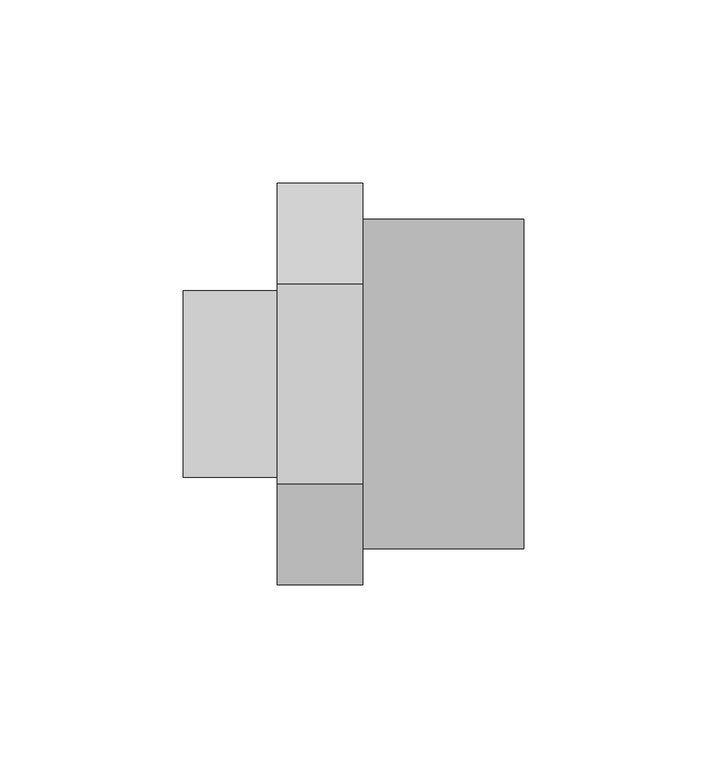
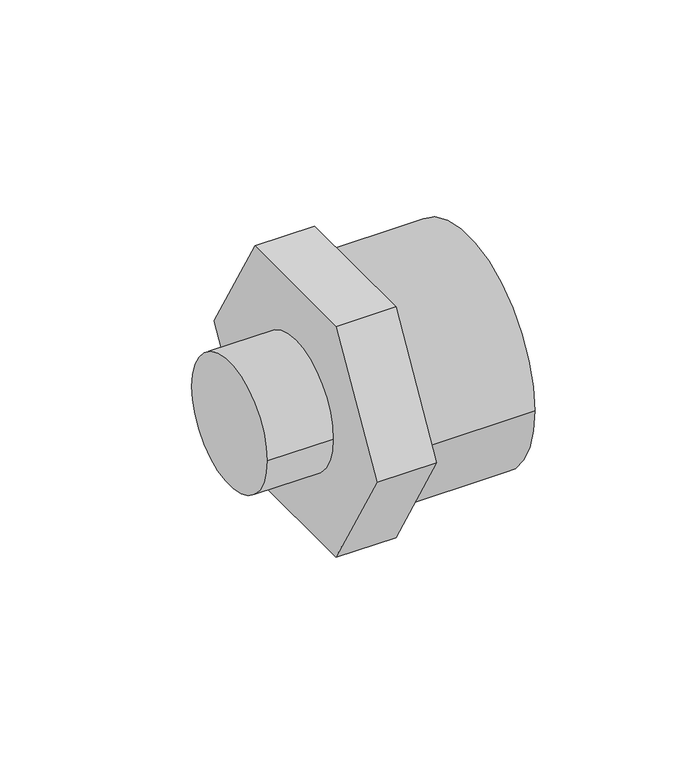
"""IFC4 building model written with IfcOpenShell, lengths in millimetres: pipe fitting geometry, 01101081 : Manguitos multiplos H/M/M."""

import ifcopenshell
import ifcopenshell.guid

model = None  # the IFC model being written
_history = None  # IfcOwnerHistory: only IFC2X3 demands one
_inside = {}  # id of a spatial element -> (the spatial element, [elements in it])
_under = {}  # id of a project, library or spatial element -> (it, [spatial elements below it])
_declared = {}  # id of a project -> (the project, [libraries it declares])
_typed = {}  # id of a type object -> (the type object, [elements of that type])
_made_of = {}  # id of a material, layer set ... -> (it, [elements and type objects made of it])


def new_model(schema):
    """Start an empty IFC model of exactly this schema.

    Asked for "IFC4X3", IfcOpenShell would pick the latest addendum, in which some entities
    have other attributes; the version numbers below select the first issue.
    IFC2X3 requires an IfcOwnerHistory on every rooted entity: one is made here for all.
    """
    global model, _history
    if schema == "IFC4X3":
        model = ifcopenshell.file(schema_version=(4, 3, 0, 0))
    else:
        model = ifcopenshell.file(schema=schema)
    _inside.clear()
    _under.clear()
    _declared.clear()
    _typed.clear()
    _made_of.clear()
    _history = None
    if model.schema == "IFC2X3":
        org = make("IfcOrganization", Name="unknown")
        user = make(
            "IfcPersonAndOrganization",
            ThePerson=make("IfcPerson", FamilyName="unknown"),
            TheOrganization=org,
        )
        app = make(
            "IfcApplication",
            ApplicationDeveloper=org,
            Version="unknown",
            ApplicationFullName="unknown",
            ApplicationIdentifier="unknown",
        )
        _history = make(
            "IfcOwnerHistory",
            OwningUser=user,
            OwningApplication=app,
            ChangeAction="ADDED",
            CreationDate=0,
        )
    return model


def make(cls, **values):
    """One entity of the class cls with the attributes given. An attribute that is None is left unset."""
    return model.create_entity(
        cls, **{name: value for name, value in values.items() if value is not None}
    )


def rooted(cls, **values):
    """An entity with a GlobalId (a new one), such as an element, a storey or a relation."""
    return make(cls, GlobalId=ifcopenshell.guid.new(), OwnerHistory=_history, **values)


def si_unit(unit_type, name, prefix=None):
    """IfcSIUnit, for example si_unit("LENGTHUNIT", "METRE", prefix="MILLI")."""
    return make("IfcSIUnit", UnitType=unit_type, Prefix=prefix, Name=name)


def assignment(units):
    """IfcUnitAssignment: the units of a project."""
    return None if units is None else make("IfcUnitAssignment", Units=units)


def point(xyz):
    """IfcCartesianPoint."""
    return None if xyz is None else make("IfcCartesianPoint", Coordinates=xyz)


def direction(xyz):
    """IfcDirection."""
    return None if xyz is None else make("IfcDirection", DirectionRatios=xyz)


def frame(location, z_axis=None, x_axis=None):
    """IfcAxis2Placement3D, a coordinate frame: its origin and axes. An axis left out is left unset."""
    return make(
        "IfcAxis2Placement3D",
        Location=point(location),
        Axis=direction(z_axis),
        RefDirection=direction(x_axis),
    )


def frame_2d(location, x_axis=None):
    """IfcAxis2Placement2D, a coordinate frame in the plane: its origin and x axis."""
    return make(
        "IfcAxis2Placement2D", Location=point(location), RefDirection=direction(x_axis)
    )


def origin():
    """The frame at (0, 0, 0) with its axes left unset."""
    return frame((0.0, 0.0, 0.0))


def origin_2d():
    """The frame at (0, 0) in the plane with its x axis left unset."""
    return frame_2d((0.0, 0.0))


def place(relative_to, where):
    """IfcLocalPlacement: puts the frame where relative to a parent placement (None: the world)."""
    return make(
        "IfcLocalPlacement", PlacementRelTo=relative_to, RelativePlacement=where
    )


def context(
    kind, dimensions, precision=None, world=None, true_north=None, identifier=None
):
    """IfcGeometricRepresentationContext, for example the 3D "Model" context."""
    return make(
        "IfcGeometricRepresentationContext",
        ContextIdentifier=identifier,
        ContextType=kind,
        CoordinateSpaceDimension=dimensions,
        Precision=precision,
        WorldCoordinateSystem=world,
        TrueNorth=true_north,
    )


def project(units=None, contexts=None):
    """IfcProject with its units and contexts."""
    return rooted(
        "IfcProject",
        Name="project",
        RepresentationContexts=contexts,
        UnitsInContext=assignment(units),
    )


def spatial(cls, under=None, at=None, **own):
    """A site, building, storey or space (cls), placed at a placement, below another one or the project."""
    s = rooted(cls, ObjectPlacement=at, **own)
    if under is not None:
        _under.setdefault(under.id(), (under, []))[1].append(s)
    return s


def polyline(points):
    """IfcPolyline through the points."""
    return make("IfcPolyline", Points=[point(p) for p in points])


def circle_curve(where, radius):
    """IfcCircle in the frame where."""
    return make("IfcCircle", Position=where, Radius=radius)


def trimmed(basis, trim1, trim2, sense, master):
    """IfcTrimmedCurve: the piece of a basis curve between two trims."""
    return make(
        "IfcTrimmedCurve",
        BasisCurve=basis,
        Trim1=trim1,
        Trim2=trim2,
        SenseAgreement=sense,
        MasterRepresentation=master,
    )


def segment(curve, same_sense, transition):
    """IfcCompositeCurveSegment."""
    return make(
        "IfcCompositeCurveSegment",
        Transition=transition,
        SameSense=same_sense,
        ParentCurve=curve,
    )


def composite_curve(segments, self_intersect=None):
    """IfcCompositeCurve: segments joined end to end."""
    return make("IfcCompositeCurve", Segments=segments, SelfIntersect=self_intersect)


def outline(outer, holes=None, kind="AREA"):
    """IfcArbitraryClosedProfileDef: a profile drawn as a closed curve; with holes, ...WithVoids."""
    if holes is None:
        return make("IfcArbitraryClosedProfileDef", ProfileType=kind, OuterCurve=outer)
    return make(
        "IfcArbitraryProfileDefWithVoids",
        ProfileType=kind,
        OuterCurve=outer,
        InnerCurves=holes,
    )


def extrude(swept, where, along, depth):
    """IfcExtrudedAreaSolid: the profile swept, set in the frame where, extruded along a direction by depth."""
    return make(
        "IfcExtrudedAreaSolid",
        SweptArea=swept,
        Position=where,
        ExtrudedDirection=direction(along),
        Depth=depth,
    )


def shape(context_of_items, identifier, shape_type, items):
    """IfcShapeRepresentation: the items that make up one representation, for example the "Body"."""
    return make(
        "IfcShapeRepresentation",
        ContextOfItems=context_of_items,
        RepresentationIdentifier=identifier,
        RepresentationType=shape_type,
        Items=items,
    )


def source(mapping_origin, context_of_items, identifier, shape_type, items):
    """IfcRepresentationMap: a shape defined once, which mapped items show again and again."""
    return make(
        "IfcRepresentationMap",
        MappingOrigin=mapping_origin,
        MappedRepresentation=shape(context_of_items, identifier, shape_type, items),
    )


def transform(
    local_origin,
    x_axis=None,
    y_axis=None,
    z_axis=None,
    scale=None,
    scale2=None,
    scale3=None,
    uniform=True,
):
    """IfcCartesianTransformationOperator3D, or its non-uniform kind. x_axis, y_axis, z_axis: its Axis1, 2, 3."""
    if uniform:
        return make(
            "IfcCartesianTransformationOperator3D",
            Axis1=direction(x_axis),
            Axis2=direction(y_axis),
            LocalOrigin=point(local_origin),
            Scale=scale,
            Axis3=direction(z_axis),
        )
    return make(
        "IfcCartesianTransformationOperator3DnonUniform",
        Axis1=direction(x_axis),
        Axis2=direction(y_axis),
        LocalOrigin=point(local_origin),
        Scale=scale,
        Axis3=direction(z_axis),
        Scale2=scale2,
        Scale3=scale3,
    )


def mapped(mapping_source, mapping_target):
    """IfcMappedItem: shows the shape of a source again, moved by a transform."""
    return make(
        "IfcMappedItem", MappingSource=mapping_source, MappingTarget=mapping_target
    )


def made_of(thing, what):
    """Note that an element or type object is made of a material, layer set ...; save() writes the relation."""
    if what is not None:
        _made_of.setdefault(what.id(), (what, []))[1].append(thing)
    return thing


def element(
    cls,
    number,
    at=None,
    inside=None,
    cuts=None,
    type_object=None,
    material=None,
    context=None,
    identifier="Body",
    shape_type=None,
    held_by="IfcProductDefinitionShape",
    body=None,
    shapes=None,
    **own,
):
    """One element of the class cls, such as IfcWall. Its Tag is "e" and its number.

    at: its placement. inside: the storey or other place that contains it. cuts: it is an
    opening in that element (IfcRelVoidsElement). A single representation is given by context,
    identifier, shape_type and body (its items); several are given by shapes. held_by: the class
    of the entity that holds the representations. save() writes the other relations.
    """
    e = rooted(cls, Tag="e%d" % number, ObjectPlacement=at, **own)
    if body is not None:
        shapes = [shape(context, identifier, shape_type, body)]
    if shapes is not None:
        e.Representation = make(held_by, Representations=shapes)
    if inside is not None:
        _inside.setdefault(inside.id(), (inside, []))[1].append(e)
    if cuts is not None:
        rooted(
            "IfcRelVoidsElement", RelatingBuildingElement=cuts, RelatedOpeningElement=e
        )
    if type_object is not None:
        _typed.setdefault(type_object.id(), (type_object, []))[1].append(e)
    return made_of(e, material)


def aggregate(whole, parts):
    """IfcRelAggregates: a whole, such as a stair, and the parts it consists of."""
    return rooted("IfcRelAggregates", RelatingObject=whole, RelatedObjects=parts)


def save(model, path):
    """Write the relations noted so far, then the file.

    IfcRelAggregates (storeys below a building ...), IfcRelContainedInSpatialStructure (elements
    in a storey), IfcRelDefinesByType, IfcRelAssociatesMaterial and IfcRelDeclares: one each for
    every whole, place, type object, material and project.
    """
    for whole, parts in _under.values():
        aggregate(whole, parts)
    for where, things in _inside.values():
        rooted(
            "IfcRelContainedInSpatialStructure",
            RelatedElements=things,
            RelatingStructure=where,
        )
    for kind, things in _typed.values():
        rooted("IfcRelDefinesByType", RelatedObjects=things, RelatingType=kind)
    for what, things in _made_of.values():
        rooted("IfcRelAssociatesMaterial", RelatedObjects=things, RelatingMaterial=what)
    for by, libraries in _declared.values():
        rooted("IfcRelDeclares", RelatingContext=by, RelatedDefinitions=libraries)
    model.write(path)


def pipe_fitting_22686c07(model_context):
    return source(origin(), model_context, "Body", "SweptSolid", [
        extrude(outline(composite_curve([segment(trimmed(circle_curve(origin_2d(), 25.4), [point((25.4, 0.0))], [point((-25.4, 0.0))], False, "CARTESIAN"), True, "CONTINUOUS"), segment(trimmed(circle_curve(origin_2d(), 25.4), [point((-25.4, 0.0))], [point((25.4, 0.0))], False, "CARTESIAN"), True, "CONTINUOUS")], self_intersect=False)), frame((0.0, 0.0, 0.0), z_axis=(1.0, 0.0, 0.0), x_axis=(0.0, 1.0, 0.0)), (0.0, 0.0, 1.0), 25.75),
        extrude(outline(polyline([(-27.4241378, 47.5), (27.4241378, 47.5), (54.8482756, 0.0), (27.4241378, -47.5), (-27.4241378, -47.5), (-54.8482756, 0.0), (-27.4241378, 47.5)])), frame((25.75, 0.0, 0.0), z_axis=(1.0, 0.0, 0.0), x_axis=(0.0, 1.0, 0.0)), (0.0, 0.0, 1.0), 23.25),
        extrude(outline(composite_curve([segment(trimmed(circle_curve(origin_2d(), 45.0), [point((-45.0, 0.0))], [point((45.0, 0.0))], False, "CARTESIAN"), True, "CONTINUOUS"), segment(trimmed(circle_curve(origin_2d(), 45.0), [point((45.0, 0.0))], [point((-45.0, 0.0))], False, "CARTESIAN"), True, "CONTINUOUS")], self_intersect=False)), frame((49.0, 0.0, 0.0), z_axis=(1.0, 0.0, 0.0), x_axis=(0.0, 1.0, 0.0)), (0.0, 0.0, 1.0), 44.0),
    ])


if __name__ == "__main__":
    model = new_model("IFC4")
    model_context = context("Model", 3, world=origin())
    ifc_project = project(units=[si_unit("LENGTHUNIT", "METRE", prefix="MILLI")], contexts=[model_context])
    site = spatial("IfcSite", under=ifc_project)
    building = spatial("IfcBuilding", under=site)
    placement = place(None, origin())
    pipe_fitting_shape = pipe_fitting_22686c07(model_context)
    element("IfcPipeFitting", 1, ObjectType="01101081 : Manguitos multiplos H/M/M", at=placement, inside=building, context=model_context, shape_type="MappedRepresentation", body=[
        mapped(pipe_fitting_shape, transform((0.0, 0.0, 0.0), x_axis=(1.0, 0.0, 0.0), y_axis=(0.0, 1.0, 0.0), z_axis=(0.0, 0.0, 1.0))),
    ])
    save(model, "model.ifc")
